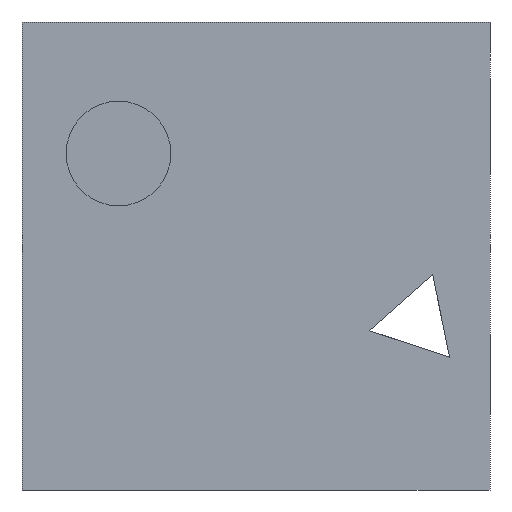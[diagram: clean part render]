
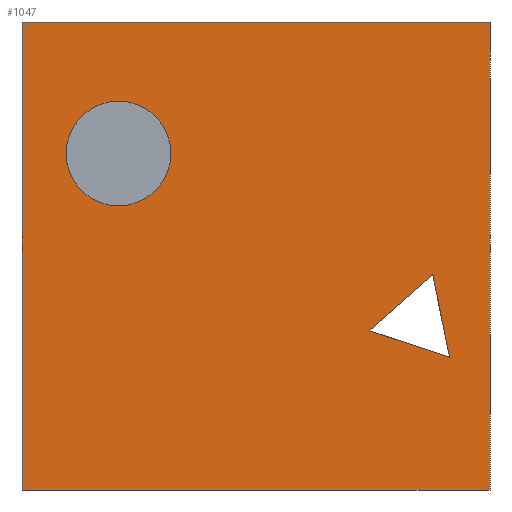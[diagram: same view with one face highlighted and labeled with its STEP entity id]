
A CAD part, left-side view. The second image highlights one B-rep face of the part: STEP entity #1047.
In plain terms, the highlighted planar face has unit normal (-1, 0, 0).
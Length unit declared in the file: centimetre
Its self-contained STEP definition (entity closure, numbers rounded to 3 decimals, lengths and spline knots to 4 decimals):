
#23 = DIRECTION ( 'NONE',  ( 0., 0., -1. ) ) ;
#53 = VECTOR ( 'NONE', #382, 100. ) ;
#68 = CARTESIAN_POINT ( 'NONE',  ( 0., 1000., 1000. ) ) ;
#82 = LINE ( 'NONE', #596, #1043 ) ;
#133 = EDGE_CURVE ( 'NONE', #389, #155, #1172, .T. ) ;
#144 = FACE_BOUND ( 'NONE', #278, .T. ) ;
#145 = ORIENTED_EDGE ( 'NONE', *, *, #989, .F. ) ;
#149 = DIRECTION ( 'NONE',  ( 0., 0., 1. ) ) ;
#155 = VERTEX_POINT ( 'NONE', #234 ) ;
#156 = CARTESIAN_POINT ( 'NONE',  ( 0., 793.8183, 718.9719 ) ) ;
#165 = CIRCLE ( 'NONE', #914, 111.8099 ) ;
#169 = CARTESIAN_POINT ( 'NONE',  ( 0., 0., 0. ) ) ;
#179 = ORIENTED_EDGE ( 'NONE', *, *, #248, .F. ) ;
#234 = CARTESIAN_POINT ( 'NONE',  ( 0., 1000., 0. ) ) ;
#248 = EDGE_CURVE ( 'NONE', #895, #1228, #871, .T. ) ;
#250 = DIRECTION ( 'NONE',  ( -1., 0., 0. ) ) ;
#265 = VECTOR ( 'NONE', #796, 100. ) ;
#269 = CARTESIAN_POINT ( 'NONE',  ( 0., 1000., 1000. ) ) ;
#278 = EDGE_LOOP ( 'NONE', ( #325, #339 ) ) ;
#298 = ORIENTED_EDGE ( 'NONE', *, *, #1114, .F. ) ;
#312 = VERTEX_POINT ( 'NONE', #1310 ) ;
#325 = ORIENTED_EDGE ( 'NONE', *, *, #1062, .F. ) ;
#337 = CARTESIAN_POINT ( 'NONE',  ( 0., 793.8183, 830.7818 ) ) ;
#339 = ORIENTED_EDGE ( 'NONE', *, *, #1249, .F. ) ;
#356 = EDGE_CURVE ( 'NONE', #389, #688, #591, .T. ) ;
#375 = CARTESIAN_POINT ( 'NONE',  ( 0., 0., 1000. ) ) ;
#376 = VECTOR ( 'NONE', #23, 100. ) ;
#379 = CARTESIAN_POINT ( 'NONE',  ( 0., 257.2633, 340.4098 ) ) ;
#382 = DIRECTION ( 'NONE',  ( 0., -1., 0. ) ) ;
#389 = VERTEX_POINT ( 'NONE', #68 ) ;
#403 = CARTESIAN_POINT ( 'NONE',  ( 0., 793.8183, 607.162 ) ) ;
#437 = VERTEX_POINT ( 'NONE', #403 ) ;
#441 = AXIS2_PLACEMENT_3D ( 'NONE', #658, #737, #985 ) ;
#460 = VECTOR ( 'NONE', #593, 100. ) ;
#469 = FACE_BOUND ( 'NONE', #1046, .T. ) ;
#487 = DIRECTION ( 'NONE',  ( -1., 0., 0. ) ) ;
#505 = CARTESIAN_POINT ( 'NONE',  ( 0., 257.2633, 340.4098 ) ) ;
#556 = DIRECTION ( 'NONE',  ( 0., 0., -1. ) ) ;
#562 = LINE ( 'NONE', #1084, #677 ) ;
#573 = FACE_OUTER_BOUND ( 'NONE', #743, .T. ) ;
#591 = LINE ( 'NONE', #269, #53 ) ;
#593 = DIRECTION ( 'NONE',  ( 0., -0.949, -0.315 ) ) ;
#596 = CARTESIAN_POINT ( 'NONE',  ( 0., 1000., 0. ) ) ;
#599 = CARTESIAN_POINT ( 'NONE',  ( 0., 86.2416, 283.564 ) ) ;
#630 = AXIS2_PLACEMENT_3D ( 'NONE', #996, #487, #734 ) ;
#658 = CARTESIAN_POINT ( 'NONE',  ( 0., 1000., 1000. ) ) ;
#670 = ORIENTED_EDGE ( 'NONE', *, *, #133, .T. ) ;
#677 = VECTOR ( 'NONE', #556, 100. ) ;
#688 = VERTEX_POINT ( 'NONE', #375 ) ;
#734 = DIRECTION ( 'NONE',  ( 0., 0., 1. ) ) ;
#737 = DIRECTION ( 'NONE',  ( 1., 0., 0. ) ) ;
#743 = EDGE_LOOP ( 'NONE', ( #1326, #145, #1111, #670 ) ) ;
#773 = EDGE_CURVE ( 'NONE', #155, #806, #82, .T. ) ;
#796 = DIRECTION ( 'NONE',  ( 0., 0.201, 0.98 ) ) ;
#806 = VERTEX_POINT ( 'NONE', #169 ) ;
#835 = PLANE ( 'NONE',  #441 ) ;
#871 = LINE ( 'NONE', #1288, #979 ) ;
#895 = VERTEX_POINT ( 'NONE', #931 ) ;
#914 = AXIS2_PLACEMENT_3D ( 'NONE', #156, #250, #149 ) ;
#931 = CARTESIAN_POINT ( 'NONE',  ( 0., 122.5225, 460.0961 ) ) ;
#957 = ORIENTED_EDGE ( 'NONE', *, *, #1171, .F. ) ;
#976 = CIRCLE ( 'NONE', #630, 111.8099 ) ;
#979 = VECTOR ( 'NONE', #1185, 100. ) ;
#985 = DIRECTION ( 'NONE',  ( 0., 0., -1. ) ) ;
#989 = EDGE_CURVE ( 'NONE', #688, #806, #562, .T. ) ;
#996 = CARTESIAN_POINT ( 'NONE',  ( 0., 793.8183, 718.9719 ) ) ;
#1006 = DIRECTION ( 'NONE',  ( 0., -1., 0. ) ) ;
#1043 = VECTOR ( 'NONE', #1006, 100. ) ;
#1046 = EDGE_LOOP ( 'NONE', ( #179, #957, #298 ) ) ;
#1047 = ADVANCED_FACE ( 'NONE', ( #144, #469, #573 ), #835, .F. ) ;
#1062 = EDGE_CURVE ( 'NONE', #1286, #437, #165, .T. ) ;
#1084 = CARTESIAN_POINT ( 'NONE',  ( 0., 0., 1000. ) ) ;
#1111 = ORIENTED_EDGE ( 'NONE', *, *, #356, .F. ) ;
#1112 = LINE ( 'NONE', #599, #265 ) ;
#1114 = EDGE_CURVE ( 'NONE', #1228, #312, #1197, .T. ) ;
#1159 = CARTESIAN_POINT ( 'NONE',  ( 0., 1000., 1000. ) ) ;
#1171 = EDGE_CURVE ( 'NONE', #312, #895, #1112, .T. ) ;
#1172 = LINE ( 'NONE', #1159, #376 ) ;
#1185 = DIRECTION ( 'NONE',  ( 0., 0.748, -0.664 ) ) ;
#1197 = LINE ( 'NONE', #505, #460 ) ;
#1228 = VERTEX_POINT ( 'NONE', #379 ) ;
#1249 = EDGE_CURVE ( 'NONE', #437, #1286, #976, .T. ) ;
#1286 = VERTEX_POINT ( 'NONE', #337 ) ;
#1288 = CARTESIAN_POINT ( 'NONE',  ( 0., 122.5225, 460.0961 ) ) ;
#1310 = CARTESIAN_POINT ( 'NONE',  ( 0., 86.2416, 283.564 ) ) ;
#1326 = ORIENTED_EDGE ( 'NONE', *, *, #773, .T. ) ;
